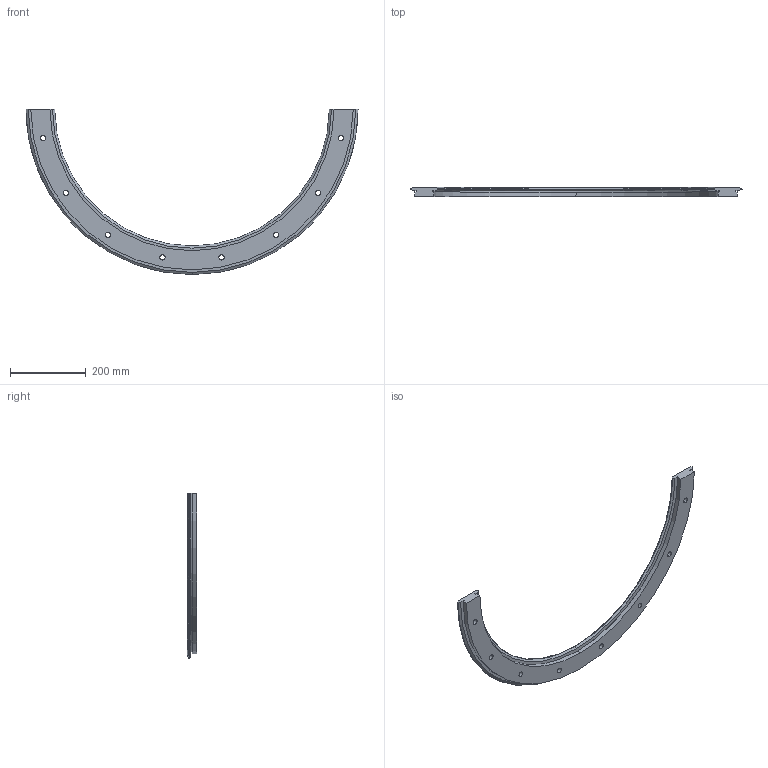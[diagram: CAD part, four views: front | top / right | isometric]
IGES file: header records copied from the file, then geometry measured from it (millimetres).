
Start section: 3D InterOp IGES (v. 2020 1.0.1), Spatial Corp. Copyright (c) 1999-2017.
Global section: file name: r76_799_r180.igs; native system: Spatial Corp.; preprocessor: 3D InterOp ACIS/IGES; author: TraceParts; organization: TraceParts S.A.; date: 20211017.093235; units: millimetre
Bounding box: 874.6 x 24 x 435.31 mm (x, y, z)
Surface area: 264557.3 mm2 (no closed solid volume)
Topology: 0 solids, 0 shells, 72 faces, 360 edges, 360 vertices
Faces by surface type: revolution 56, extrusion 16
